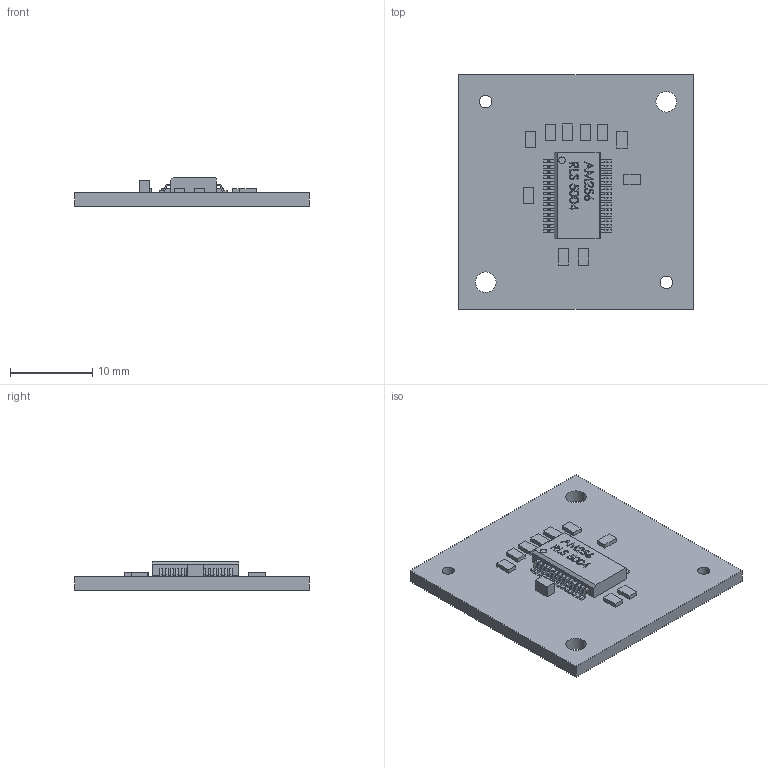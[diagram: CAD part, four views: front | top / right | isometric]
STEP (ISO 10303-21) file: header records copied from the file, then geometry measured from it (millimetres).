
FILE_DESCRIPTION (( 'STEP AP214' ), '1' );
FILE_NAME ('RMB28AC2.STEP', '2016-12-19T13:40:49', ( '' ), ( '' ), 'SwSTEP 2.0', 'SolidWorks 2016', '' );
FILE_SCHEMA (( 'AUTOMOTIVE_DESIGN' ));
Length unit declared in the file: millimetre
Products named in the file (1): RMB28AC2
Bounding box: 28.5 x 28.5 x 3.52 mm (x, y, z)
Volume: 1402.5 mm3; surface area: 2083 mm2
Topology: 1 solids, 1 shells, 523 faces, 1434 edges, 956 vertices
Faces by surface type: plane 442, bspline 69, cylinder 12
Entity records: 20803 total; most frequent: CARTESIAN_POINT 7559, ORIENTED_EDGE 2868, DIRECTION 2230, EDGE_CURVE 1434, VECTOR 1272, LINE 1272, VERTEX_POINT 956, EDGE_LOOP 628
